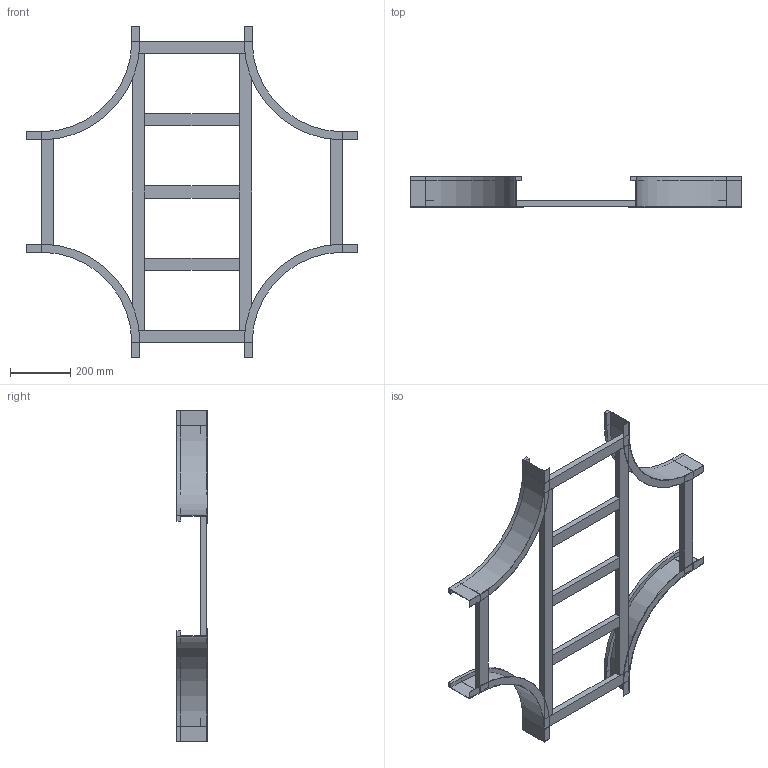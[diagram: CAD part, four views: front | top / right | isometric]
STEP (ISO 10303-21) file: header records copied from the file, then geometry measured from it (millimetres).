
FILE_DESCRIPTION (( 'STEP AP214' ), '1' );
FILE_NAME ('B2_17B3D400.step', '2025-02-21T15:55:37', ( '' ), ( '' ), 'SwSTEP 2.0', 'SolidWorks 2023', '' );
FILE_SCHEMA (( 'AUTOMOTIVE_DESIGN' ));
Length unit declared in the file: millimetre
Products named in the file (5): B2_TRAVERSINO_LONG._R300+400; TRAVERSINO_400; B2_17B3D400; B2_LONGH.INTERNO 90°_H100_R300; TRAVERSINO_INTERMEDIO_R300+400
Assembly tree (13 placements, depth 2):
  B2_17B3D400
    B2_LONGH.INTERNO 90°_H100_R300  x4
    TRAVERSINO_400  x4
    B2_TRAVERSINO_LONG._R300+400  x2
    TRAVERSINO_INTERMEDIO_R300+400  x3
Bounding box: 1100 x 100 x 1100 mm (x, y, z)
Volume: 4565096 mm3; surface area: 1209388.5 mm2
Topology: 13 solids, 13 shells, 158 faces, 332 edges, 200 vertices
Faces by surface type: plane 142, cylinder 16
Entity records: 1362 total; most frequent: DIRECTION 220, CARTESIAN_POINT 208, ORIENTED_EDGE 184, EDGE_CURVE 92, LINE 84, VECTOR 84, AXIS2_PLACEMENT_3D 68, VERTEX_POINT 56
